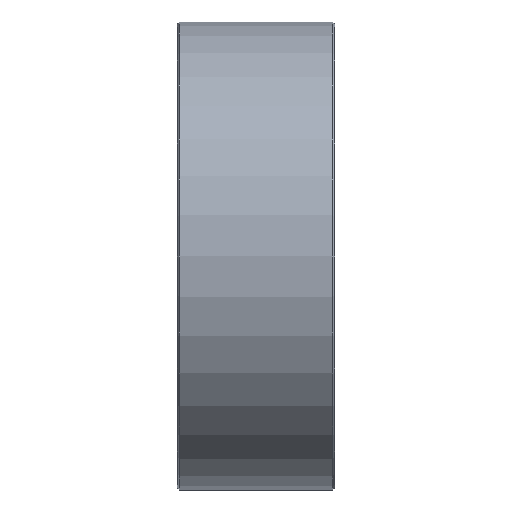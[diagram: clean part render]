
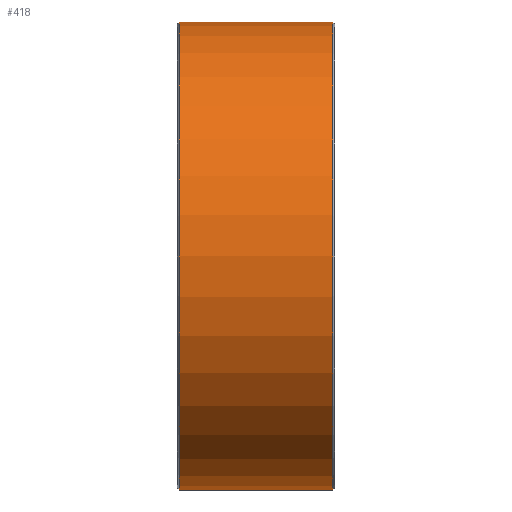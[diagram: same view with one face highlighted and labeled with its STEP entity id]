
A CAD part, front view. The second image highlights one B-rep face of the part: STEP entity #418.
In plain terms, the highlighted cylindrical face has radius 89.4 mm (diameter 178.8 mm), a full revolution.
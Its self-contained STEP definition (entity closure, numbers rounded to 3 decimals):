
#13=B_SPLINE_CURVE_WITH_KNOTS('',3,(#676,#677,#678,#679,#680,#681,#682,
#683,#684,#685,#686,#687,#688,#689,#690,#691,#692,#693,#694,#695,#696,#697),
 .UNSPECIFIED.,.F.,.F.,(4,2,2,2,2,2,2,2,2,2,4),(0.,0.196,0.392,
0.588,0.784,0.98,1.176,
1.371,1.567,1.763,1.949),
 .UNSPECIFIED.);
#14=B_SPLINE_CURVE_WITH_KNOTS('',3,(#698,#699,#700,#701,#702,#703),
 .UNSPECIFIED.,.F.,.F.,(4,2,4),(2.753,2.939,3.135),
 .UNSPECIFIED.);
#15=B_SPLINE_CURVE_WITH_KNOTS('',3,(#715,#716,#717,#718,#719,#720,#721,
#722,#723,#724,#725,#726,#727,#728,#729,#730,#731,#732,#733,#734,#735,#736),
 .UNSPECIFIED.,.F.,.F.,(4,2,2,2,2,2,2,2,2,2,4),(1.186,1.371,
1.567,1.763,1.959,2.155,2.351,
2.547,2.743,2.939,3.135),
 .UNSPECIFIED.);
#16=B_SPLINE_CURVE_WITH_KNOTS('',3,(#737,#738,#739,#740,#741,#742),
 .UNSPECIFIED.,.F.,.F.,(4,2,4),(0.,0.196,0.381),
 .UNSPECIFIED.);
#21=LINE('',#651,#33);
#22=LINE('',#654,#34);
#26=LINE('',#664,#38);
#30=LINE('',#671,#42);
#33=VECTOR('',#518,24.949);
#34=VECTOR('',#521,9.846);
#38=VECTOR('',#531,24.949);
#42=VECTOR('',#537,9.846);
#66=FACE_OUTER_BOUND('',#136,.T.);
#82=CYLINDRICAL_SURFACE('',#462,89.4);
#97=FACE_BOUND('',#137,.T.);
#98=FACE_BOUND('',#138,.T.);
#136=EDGE_LOOP('',(#317));
#137=EDGE_LOOP('',(#318,#319,#320,#321,#322,#323,#324,#325));
#138=EDGE_LOOP('',(#326));
#178=CIRCLE('',#463,89.4);
#179=CIRCLE('',#464,89.4);
#193=VERTEX_POINT('',#620);
#195=VERTEX_POINT('',#625);
#200=VERTEX_POINT('',#649);
#201=VERTEX_POINT('',#653);
#204=VERTEX_POINT('',#663);
#206=VERTEX_POINT('',#669);
#207=VERTEX_POINT('',#675);
#211=VERTEX_POINT('',#712);
#212=VERTEX_POINT('',#714);
#213=VERTEX_POINT('',#743);
#238=EDGE_CURVE('',#193,#200,#21,.T.);
#239=EDGE_CURVE('',#201,#193,#22,.T.);
#244=EDGE_CURVE('',#204,#195,#26,.T.);
#248=EDGE_CURVE('',#195,#206,#30,.T.);
#250=EDGE_CURVE('',#207,#204,#13,.T.);
#251=EDGE_CURVE('',#200,#207,#14,.T.);
#255=EDGE_CURVE('',#211,#211,#178,.T.);
#256=EDGE_CURVE('',#206,#212,#15,.T.);
#257=EDGE_CURVE('',#212,#201,#16,.T.);
#258=EDGE_CURVE('',#213,#213,#179,.T.);
#317=ORIENTED_EDGE('',*,*,#255,.T.);
#318=ORIENTED_EDGE('',*,*,#238,.T.);
#319=ORIENTED_EDGE('',*,*,#251,.T.);
#320=ORIENTED_EDGE('',*,*,#250,.T.);
#321=ORIENTED_EDGE('',*,*,#244,.T.);
#322=ORIENTED_EDGE('',*,*,#248,.T.);
#323=ORIENTED_EDGE('',*,*,#256,.T.);
#324=ORIENTED_EDGE('',*,*,#257,.T.);
#325=ORIENTED_EDGE('',*,*,#239,.T.);
#326=ORIENTED_EDGE('',*,*,#258,.F.);
#418=ADVANCED_FACE('',(#66,#97,#98),#82,.T.);
#462=AXIS2_PLACEMENT_3D('',#711,#552,#553);
#463=AXIS2_PLACEMENT_3D('',#713,#554,#555);
#464=AXIS2_PLACEMENT_3D('',#744,#556,#557);
#518=DIRECTION('',(1.,0.,0.));
#521=DIRECTION('',(1.,0.,0.));
#531=DIRECTION('',(-1.,0.,0.));
#537=DIRECTION('',(-1.,0.,0.));
#552=DIRECTION('center_axis',(1.,0.,0.));
#553=DIRECTION('ref_axis',(0.,1.,0.));
#554=DIRECTION('center_axis',(1.,0.,0.));
#555=DIRECTION('ref_axis',(0.,1.,0.));
#556=DIRECTION('center_axis',(1.,0.,0.));
#557=DIRECTION('ref_axis',(0.,1.,0.));
#620=CARTESIAN_POINT('',(-7.552,89.321,-3.75));
#625=CARTESIAN_POINT('',(-7.552,89.321,3.75));
#649=CARTESIAN_POINT('',(17.398,89.321,-3.75));
#651=CARTESIAN_POINT('',(0.,89.321,-3.75));
#653=CARTESIAN_POINT('',(-17.398,89.321,-3.75));
#654=CARTESIAN_POINT('',(0.,89.321,-3.75));
#663=CARTESIAN_POINT('',(17.398,89.321,3.75));
#664=CARTESIAN_POINT('',(0.,89.321,3.75));
#669=CARTESIAN_POINT('',(-17.398,89.321,3.75));
#671=CARTESIAN_POINT('',(0.,89.321,3.75));
#675=CARTESIAN_POINT('',(21.,89.249,-5.2));
#676=CARTESIAN_POINT('Ctrl Pts',(21.,89.249,-5.2));
#677=CARTESIAN_POINT('Ctrl Pts',(21.653,89.249,-5.2));
#678=CARTESIAN_POINT('Ctrl Pts',(22.35,89.257,-5.069));
#679=CARTESIAN_POINT('Ctrl Pts',(23.631,89.285,-4.539));
#680=CARTESIAN_POINT('Ctrl Pts',(24.215,89.305,-4.139));
#681=CARTESIAN_POINT('Ctrl Pts',(25.139,89.343,-3.215));
#682=CARTESIAN_POINT('Ctrl Pts',(25.539,89.364,-2.631));
#683=CARTESIAN_POINT('Ctrl Pts',(26.069,89.392,-1.35));
#684=CARTESIAN_POINT('Ctrl Pts',(26.2,89.4,-0.653));
#685=CARTESIAN_POINT('Ctrl Pts',(26.2,89.4,0.653));
#686=CARTESIAN_POINT('Ctrl Pts',(26.069,89.392,1.35));
#687=CARTESIAN_POINT('Ctrl Pts',(25.539,89.364,2.631));
#688=CARTESIAN_POINT('Ctrl Pts',(25.139,89.343,3.215));
#689=CARTESIAN_POINT('Ctrl Pts',(24.215,89.305,4.139));
#690=CARTESIAN_POINT('Ctrl Pts',(23.631,89.285,4.539));
#691=CARTESIAN_POINT('Ctrl Pts',(22.35,89.257,5.069));
#692=CARTESIAN_POINT('Ctrl Pts',(21.653,89.249,5.2));
#693=CARTESIAN_POINT('Ctrl Pts',(20.347,89.249,5.2));
#694=CARTESIAN_POINT('Ctrl Pts',(19.65,89.257,5.069));
#695=CARTESIAN_POINT('Ctrl Pts',(18.403,89.284,4.553));
#696=CARTESIAN_POINT('Ctrl Pts',(17.846,89.303,4.181));
#697=CARTESIAN_POINT('Ctrl Pts',(17.398,89.321,3.75));
#698=CARTESIAN_POINT('Ctrl Pts',(17.398,89.321,-3.75));
#699=CARTESIAN_POINT('Ctrl Pts',(17.846,89.303,-4.181));
#700=CARTESIAN_POINT('Ctrl Pts',(18.403,89.284,-4.553));
#701=CARTESIAN_POINT('Ctrl Pts',(19.65,89.257,-5.069));
#702=CARTESIAN_POINT('Ctrl Pts',(20.347,89.249,-5.2));
#703=CARTESIAN_POINT('Ctrl Pts',(21.,89.249,-5.2));
#711=CARTESIAN_POINT('Origin',(0.,0.,0.));
#712=CARTESIAN_POINT('',(-29.293,89.4,0.));
#713=CARTESIAN_POINT('Origin',(-29.293,0.,0.));
#714=CARTESIAN_POINT('',(-21.,89.249,-5.2));
#715=CARTESIAN_POINT('Ctrl Pts',(-17.398,89.321,3.75));
#716=CARTESIAN_POINT('Ctrl Pts',(-17.846,89.303,4.181));
#717=CARTESIAN_POINT('Ctrl Pts',(-18.403,89.284,4.553));
#718=CARTESIAN_POINT('Ctrl Pts',(-19.65,89.257,5.069));
#719=CARTESIAN_POINT('Ctrl Pts',(-20.347,89.249,5.2));
#720=CARTESIAN_POINT('Ctrl Pts',(-21.653,89.249,5.2));
#721=CARTESIAN_POINT('Ctrl Pts',(-22.35,89.257,5.069));
#722=CARTESIAN_POINT('Ctrl Pts',(-23.631,89.285,4.539));
#723=CARTESIAN_POINT('Ctrl Pts',(-24.215,89.305,4.139));
#724=CARTESIAN_POINT('Ctrl Pts',(-25.139,89.343,3.215));
#725=CARTESIAN_POINT('Ctrl Pts',(-25.539,89.364,2.631));
#726=CARTESIAN_POINT('Ctrl Pts',(-26.069,89.392,1.35));
#727=CARTESIAN_POINT('Ctrl Pts',(-26.2,89.4,0.653));
#728=CARTESIAN_POINT('Ctrl Pts',(-26.2,89.4,-0.653));
#729=CARTESIAN_POINT('Ctrl Pts',(-26.069,89.392,-1.35));
#730=CARTESIAN_POINT('Ctrl Pts',(-25.539,89.364,-2.631));
#731=CARTESIAN_POINT('Ctrl Pts',(-25.139,89.343,-3.215));
#732=CARTESIAN_POINT('Ctrl Pts',(-24.215,89.305,-4.139));
#733=CARTESIAN_POINT('Ctrl Pts',(-23.631,89.285,-4.539));
#734=CARTESIAN_POINT('Ctrl Pts',(-22.35,89.257,-5.069));
#735=CARTESIAN_POINT('Ctrl Pts',(-21.653,89.249,-5.2));
#736=CARTESIAN_POINT('Ctrl Pts',(-21.,89.249,-5.2));
#737=CARTESIAN_POINT('Ctrl Pts',(-21.,89.249,-5.2));
#738=CARTESIAN_POINT('Ctrl Pts',(-20.347,89.249,-5.2));
#739=CARTESIAN_POINT('Ctrl Pts',(-19.65,89.257,-5.069));
#740=CARTESIAN_POINT('Ctrl Pts',(-18.403,89.284,-4.553));
#741=CARTESIAN_POINT('Ctrl Pts',(-17.846,89.303,-4.181));
#742=CARTESIAN_POINT('Ctrl Pts',(-17.398,89.321,-3.75));
#743=CARTESIAN_POINT('',(29.293,89.4,0.));
#744=CARTESIAN_POINT('Origin',(29.293,0.,0.));
